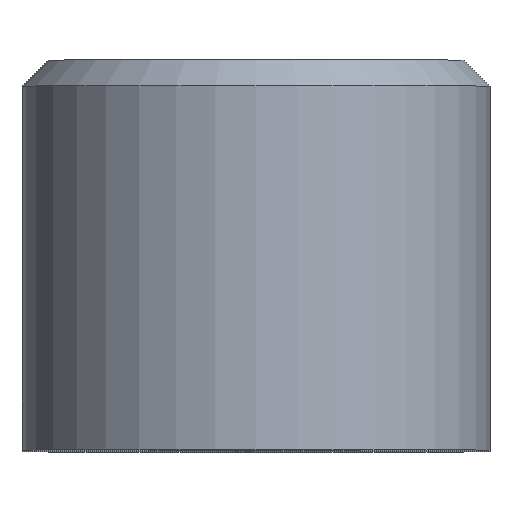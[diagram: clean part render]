
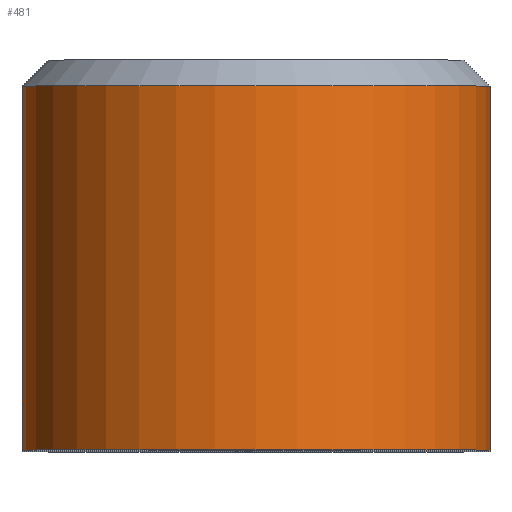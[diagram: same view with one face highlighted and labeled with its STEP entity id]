
A CAD part, top view. The second image highlights one B-rep face of the part: STEP entity #481.
In plain terms, the highlighted cylindrical face has radius 9 mm (diameter 18 mm), a partial arc.
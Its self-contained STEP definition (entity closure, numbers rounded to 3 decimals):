
#61=FACE_OUTER_BOUND('',#94,.T.);
#94=EDGE_LOOP('',(#414,#415,#416,#417));
#122=LINE('',#763,#164);
#138=LINE('',#824,#180);
#164=VECTOR('',#612,10.);
#180=VECTOR('',#682,10.);
#193=CIRCLE('',#520,9.);
#205=CIRCLE('',#541,9.);
#229=VERTEX_POINT('',#760);
#230=VERTEX_POINT('',#762);
#233=VERTEX_POINT('',#770);
#247=VERTEX_POINT('',#814);
#280=EDGE_CURVE('',#229,#230,#122,.T.);
#285=EDGE_CURVE('',#229,#233,#193,.T.);
#306=EDGE_CURVE('',#230,#247,#205,.T.);
#310=EDGE_CURVE('',#233,#247,#138,.T.);
#414=ORIENTED_EDGE('',*,*,#306,.F.);
#415=ORIENTED_EDGE('',*,*,#280,.F.);
#416=ORIENTED_EDGE('',*,*,#285,.T.);
#417=ORIENTED_EDGE('',*,*,#310,.T.);
#455=CYLINDRICAL_SURFACE('',#545,9.);
#481=ADVANCED_FACE('',(#61),#455,.T.);
#520=AXIS2_PLACEMENT_3D('',#772,#619,#620);
#541=AXIS2_PLACEMENT_3D('',#816,#670,#671);
#545=AXIS2_PLACEMENT_3D('',#823,#680,#681);
#612=DIRECTION('',(0.,1.,0.));
#619=DIRECTION('center_axis',(0.,1.,0.));
#620=DIRECTION('ref_axis',(-1.,0.,0.));
#670=DIRECTION('center_axis',(0.,1.,0.));
#671=DIRECTION('ref_axis',(-1.,0.,0.));
#680=DIRECTION('center_axis',(0.,1.,0.));
#681=DIRECTION('ref_axis',(-1.,0.,0.));
#682=DIRECTION('',(0.,1.,0.));
#760=CARTESIAN_POINT('',(31.,0.,60.525));
#762=CARTESIAN_POINT('',(31.,14.,60.525));
#763=CARTESIAN_POINT('',(31.,0.,60.525));
#770=CARTESIAN_POINT('',(49.,0.,60.525));
#772=CARTESIAN_POINT('Origin',(40.,0.,60.525));
#814=CARTESIAN_POINT('',(49.,14.,60.525));
#816=CARTESIAN_POINT('Origin',(40.,14.,60.525));
#823=CARTESIAN_POINT('Origin',(40.,0.,60.525));
#824=CARTESIAN_POINT('',(49.,0.,60.525));
